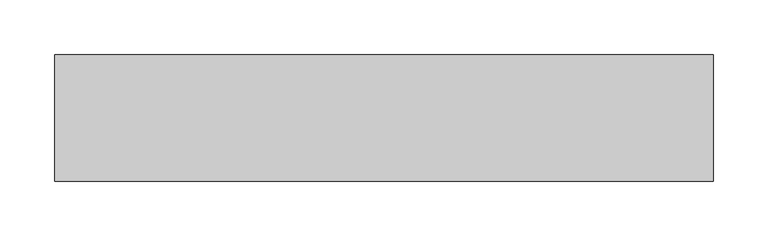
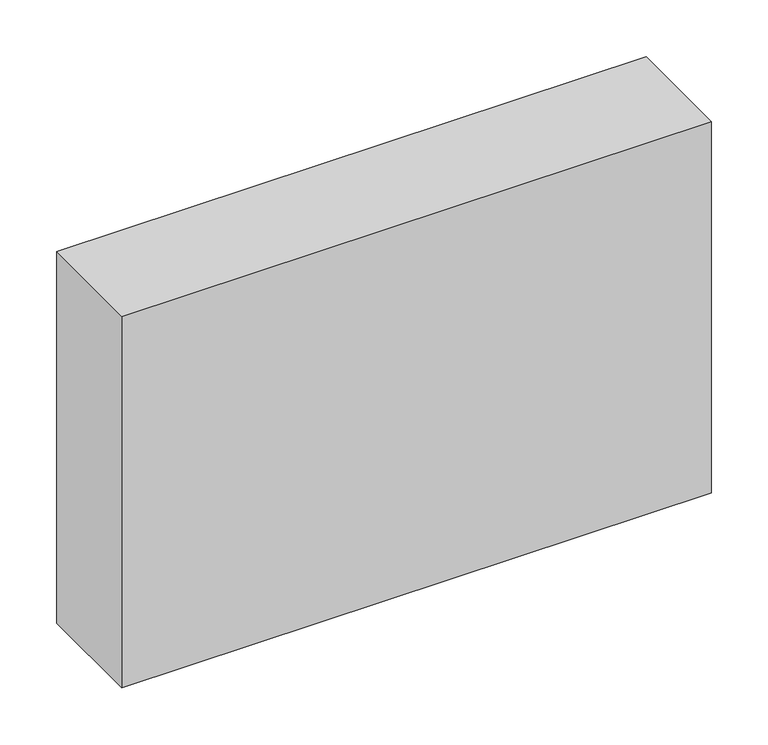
"""IFC4 building model written with IfcOpenShell, lengths in millimetres: proxy geometry, Módulo de Vedação de Concreto Celular - Celucon : MVCC 11,5x40x60cm (L x A x C)."""

import ifcopenshell
import ifcopenshell.guid

model = None  # the IFC model being written
_history = None  # IfcOwnerHistory: only IFC2X3 demands one
_inside = {}  # id of a spatial element -> (the spatial element, [elements in it])
_under = {}  # id of a project, library or spatial element -> (it, [spatial elements below it])
_declared = {}  # id of a project -> (the project, [libraries it declares])
_typed = {}  # id of a type object -> (the type object, [elements of that type])
_made_of = {}  # id of a material, layer set ... -> (it, [elements and type objects made of it])


def new_model(schema):
    """Start an empty IFC model of exactly this schema.

    Asked for "IFC4X3", IfcOpenShell would pick the latest addendum, in which some entities
    have other attributes; the version numbers below select the first issue.
    IFC2X3 requires an IfcOwnerHistory on every rooted entity: one is made here for all.
    """
    global model, _history
    if schema == "IFC4X3":
        model = ifcopenshell.file(schema_version=(4, 3, 0, 0))
    else:
        model = ifcopenshell.file(schema=schema)
    _inside.clear()
    _under.clear()
    _declared.clear()
    _typed.clear()
    _made_of.clear()
    _history = None
    if model.schema == "IFC2X3":
        org = make("IfcOrganization", Name="unknown")
        user = make(
            "IfcPersonAndOrganization",
            ThePerson=make("IfcPerson", FamilyName="unknown"),
            TheOrganization=org,
        )
        app = make(
            "IfcApplication",
            ApplicationDeveloper=org,
            Version="unknown",
            ApplicationFullName="unknown",
            ApplicationIdentifier="unknown",
        )
        _history = make(
            "IfcOwnerHistory",
            OwningUser=user,
            OwningApplication=app,
            ChangeAction="ADDED",
            CreationDate=0,
        )
    return model


def make(cls, **values):
    """One entity of the class cls with the attributes given. An attribute that is None is left unset."""
    return model.create_entity(
        cls, **{name: value for name, value in values.items() if value is not None}
    )


def rooted(cls, **values):
    """An entity with a GlobalId (a new one), such as an element, a storey or a relation."""
    return make(cls, GlobalId=ifcopenshell.guid.new(), OwnerHistory=_history, **values)


def si_unit(unit_type, name, prefix=None):
    """IfcSIUnit, for example si_unit("LENGTHUNIT", "METRE", prefix="MILLI")."""
    return make("IfcSIUnit", UnitType=unit_type, Prefix=prefix, Name=name)


def assignment(units):
    """IfcUnitAssignment: the units of a project."""
    return None if units is None else make("IfcUnitAssignment", Units=units)


def point(xyz):
    """IfcCartesianPoint."""
    return None if xyz is None else make("IfcCartesianPoint", Coordinates=xyz)


def direction(xyz):
    """IfcDirection."""
    return None if xyz is None else make("IfcDirection", DirectionRatios=xyz)


def frame(location, z_axis=None, x_axis=None):
    """IfcAxis2Placement3D, a coordinate frame: its origin and axes. An axis left out is left unset."""
    return make(
        "IfcAxis2Placement3D",
        Location=point(location),
        Axis=direction(z_axis),
        RefDirection=direction(x_axis),
    )


def origin():
    """The frame at (0, 0, 0) with its axes left unset."""
    return frame((0.0, 0.0, 0.0))


def origin_with_axes():
    """The frame at (0, 0, 0) with the z axis (0, 0, 1) and the x axis (1, 0, 0) written out."""
    return frame((0.0, 0.0, 0.0), z_axis=(0.0, 0.0, 1.0), x_axis=(1.0, 0.0, 0.0))


def place(relative_to, where):
    """IfcLocalPlacement: puts the frame where relative to a parent placement (None: the world)."""
    return make(
        "IfcLocalPlacement", PlacementRelTo=relative_to, RelativePlacement=where
    )


def context(
    kind, dimensions, precision=None, world=None, true_north=None, identifier=None
):
    """IfcGeometricRepresentationContext, for example the 3D "Model" context."""
    return make(
        "IfcGeometricRepresentationContext",
        ContextIdentifier=identifier,
        ContextType=kind,
        CoordinateSpaceDimension=dimensions,
        Precision=precision,
        WorldCoordinateSystem=world,
        TrueNorth=true_north,
    )


def project(units=None, contexts=None):
    """IfcProject with its units and contexts."""
    return rooted(
        "IfcProject",
        Name="project",
        RepresentationContexts=contexts,
        UnitsInContext=assignment(units),
    )


def spatial(cls, under=None, at=None, **own):
    """A site, building, storey or space (cls), placed at a placement, below another one or the project."""
    s = rooted(cls, ObjectPlacement=at, **own)
    if under is not None:
        _under.setdefault(under.id(), (under, []))[1].append(s)
    return s


def polyline(points):
    """IfcPolyline through the points."""
    return make("IfcPolyline", Points=[point(p) for p in points])


def outline(outer, holes=None, kind="AREA"):
    """IfcArbitraryClosedProfileDef: a profile drawn as a closed curve; with holes, ...WithVoids."""
    if holes is None:
        return make("IfcArbitraryClosedProfileDef", ProfileType=kind, OuterCurve=outer)
    return make(
        "IfcArbitraryProfileDefWithVoids",
        ProfileType=kind,
        OuterCurve=outer,
        InnerCurves=holes,
    )


def extrude(swept, where, along, depth):
    """IfcExtrudedAreaSolid: the profile swept, set in the frame where, extruded along a direction by depth."""
    return make(
        "IfcExtrudedAreaSolid",
        SweptArea=swept,
        Position=where,
        ExtrudedDirection=direction(along),
        Depth=depth,
    )


def shape(context_of_items, identifier, shape_type, items):
    """IfcShapeRepresentation: the items that make up one representation, for example the "Body"."""
    return make(
        "IfcShapeRepresentation",
        ContextOfItems=context_of_items,
        RepresentationIdentifier=identifier,
        RepresentationType=shape_type,
        Items=items,
    )


def source(mapping_origin, context_of_items, identifier, shape_type, items):
    """IfcRepresentationMap: a shape defined once, which mapped items show again and again."""
    return make(
        "IfcRepresentationMap",
        MappingOrigin=mapping_origin,
        MappedRepresentation=shape(context_of_items, identifier, shape_type, items),
    )


def transform(
    local_origin,
    x_axis=None,
    y_axis=None,
    z_axis=None,
    scale=None,
    scale2=None,
    scale3=None,
    uniform=True,
):
    """IfcCartesianTransformationOperator3D, or its non-uniform kind. x_axis, y_axis, z_axis: its Axis1, 2, 3."""
    if uniform:
        return make(
            "IfcCartesianTransformationOperator3D",
            Axis1=direction(x_axis),
            Axis2=direction(y_axis),
            LocalOrigin=point(local_origin),
            Scale=scale,
            Axis3=direction(z_axis),
        )
    return make(
        "IfcCartesianTransformationOperator3DnonUniform",
        Axis1=direction(x_axis),
        Axis2=direction(y_axis),
        LocalOrigin=point(local_origin),
        Scale=scale,
        Axis3=direction(z_axis),
        Scale2=scale2,
        Scale3=scale3,
    )


def mapped(mapping_source, mapping_target):
    """IfcMappedItem: shows the shape of a source again, moved by a transform."""
    return make(
        "IfcMappedItem", MappingSource=mapping_source, MappingTarget=mapping_target
    )


def made_of(thing, what):
    """Note that an element or type object is made of a material, layer set ...; save() writes the relation."""
    if what is not None:
        _made_of.setdefault(what.id(), (what, []))[1].append(thing)
    return thing


def element(
    cls,
    number,
    at=None,
    inside=None,
    cuts=None,
    type_object=None,
    material=None,
    context=None,
    identifier="Body",
    shape_type=None,
    held_by="IfcProductDefinitionShape",
    body=None,
    shapes=None,
    **own,
):
    """One element of the class cls, such as IfcWall. Its Tag is "e" and its number.

    at: its placement. inside: the storey or other place that contains it. cuts: it is an
    opening in that element (IfcRelVoidsElement). A single representation is given by context,
    identifier, shape_type and body (its items); several are given by shapes. held_by: the class
    of the entity that holds the representations. save() writes the other relations.
    """
    e = rooted(cls, Tag="e%d" % number, ObjectPlacement=at, **own)
    if body is not None:
        shapes = [shape(context, identifier, shape_type, body)]
    if shapes is not None:
        e.Representation = make(held_by, Representations=shapes)
    if inside is not None:
        _inside.setdefault(inside.id(), (inside, []))[1].append(e)
    if cuts is not None:
        rooted(
            "IfcRelVoidsElement", RelatingBuildingElement=cuts, RelatedOpeningElement=e
        )
    if type_object is not None:
        _typed.setdefault(type_object.id(), (type_object, []))[1].append(e)
    return made_of(e, material)


def aggregate(whole, parts):
    """IfcRelAggregates: a whole, such as a stair, and the parts it consists of."""
    return rooted("IfcRelAggregates", RelatingObject=whole, RelatedObjects=parts)


def save(model, path):
    """Write the relations noted so far, then the file.

    IfcRelAggregates (storeys below a building ...), IfcRelContainedInSpatialStructure (elements
    in a storey), IfcRelDefinesByType, IfcRelAssociatesMaterial and IfcRelDeclares: one each for
    every whole, place, type object, material and project.
    """
    for whole, parts in _under.values():
        aggregate(whole, parts)
    for where, things in _inside.values():
        rooted(
            "IfcRelContainedInSpatialStructure",
            RelatedElements=things,
            RelatingStructure=where,
        )
    for kind, things in _typed.values():
        rooted("IfcRelDefinesByType", RelatedObjects=things, RelatingType=kind)
    for what, things in _made_of.values():
        rooted("IfcRelAssociatesMaterial", RelatedObjects=things, RelatingMaterial=what)
    for by, libraries in _declared.values():
        rooted("IfcRelDeclares", RelatingContext=by, RelatedDefinitions=libraries)
    model.write(path)


def generic_models_503ec5d7(model_context):
    return source(origin(), model_context, "Body", "SweptSolid", [
        extrude(outline(polyline([(300.0, 57.5), (300.0, -57.5), (-300.0, -57.5), (-300.0, 57.5), (300.0, 57.5)])), origin_with_axes(), (0.0, 0.0, 1.0), 400.0),
    ])


if __name__ == "__main__":
    model = new_model("IFC4")
    model_context = context("Model", 3, world=origin())
    ifc_project = project(units=[si_unit("LENGTHUNIT", "METRE", prefix="MILLI")], contexts=[model_context])
    site = spatial("IfcSite", under=ifc_project)
    building = spatial("IfcBuilding", under=site)
    placement = place(None, origin())
    generic_models_shape = generic_models_503ec5d7(model_context)
    element("IfcBuildingElementProxy", 1, Name="Módulo de Vedação de Concreto Celular - Celucon : MVCC 11,5x40x60cm (L x A x C)", ObjectType="Módulo de Vedação de Concreto Celular - Celucon : MVCC 11,5x40x60cm (L x A x C)", at=placement, inside=building, context=model_context, shape_type="MappedRepresentation", body=[
        mapped(generic_models_shape, transform((0.0, 0.0, 0.0), x_axis=(1.0, 0.0, 0.0), y_axis=(0.0, 1.0, 0.0), z_axis=(0.0, 0.0, 1.0))),
    ])
    save(model, "model.ifc")
